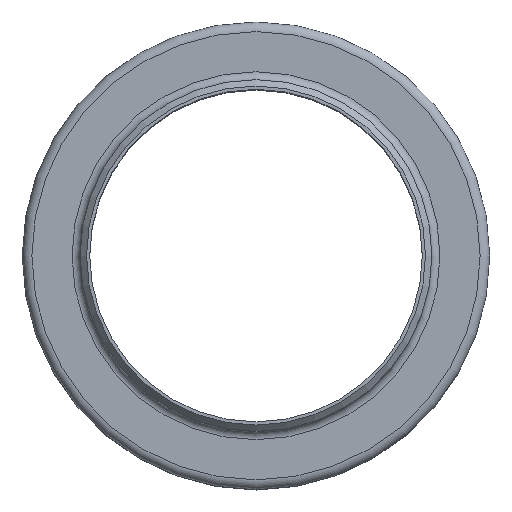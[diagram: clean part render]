
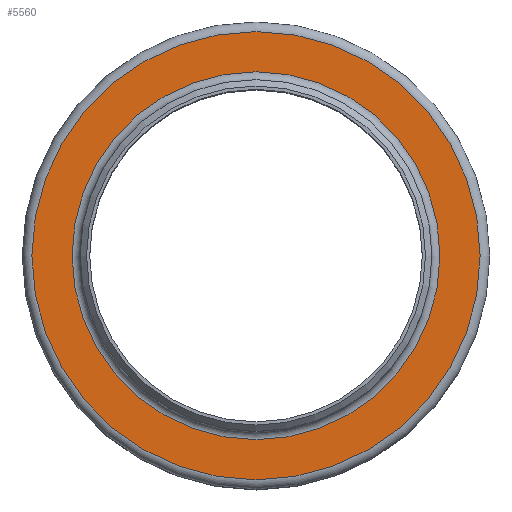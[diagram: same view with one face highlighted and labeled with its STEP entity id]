
A CAD part, top view. The second image highlights one B-rep face of the part: STEP entity #5560.
In plain terms, the highlighted planar face has unit normal (0, 0, 1).
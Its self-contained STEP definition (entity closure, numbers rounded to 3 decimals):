
#196=FACE_BOUND('',#1013,.T.);
#413=PLANE('',#5963);
#673=FACE_OUTER_BOUND('',#1012,.T.);
#1012=EDGE_LOOP('',(#4641));
#1013=EDGE_LOOP('',(#4642));
#2020=CIRCLE('',#5958,114.5);
#2024=CIRCLE('',#5964,139.5);
#2574=VERTEX_POINT('',#12948);
#2577=VERTEX_POINT('',#12959);
#3280=EDGE_CURVE('',#2574,#2574,#2020,.T.);
#3285=EDGE_CURVE('',#2577,#2577,#2024,.T.);
#4641=ORIENTED_EDGE('',*,*,#3285,.F.);
#4642=ORIENTED_EDGE('',*,*,#3280,.F.);
#5560=ADVANCED_FACE('',(#673,#196),#413,.F.);
#5958=AXIS2_PLACEMENT_3D('',#12950,#7062,#7063);
#5963=AXIS2_PLACEMENT_3D('',#12958,#7073,#7074);
#5964=AXIS2_PLACEMENT_3D('',#12960,#7075,#7076);
#7062=DIRECTION('center_axis',(0.,0.,1.));
#7063=DIRECTION('ref_axis',(0.,-1.,0.));
#7073=DIRECTION('center_axis',(0.,0.,-1.));
#7074=DIRECTION('ref_axis',(-1.,0.,0.));
#7075=DIRECTION('center_axis',(0.,0.,-1.));
#7076=DIRECTION('ref_axis',(1.,0.,0.));
#12948=CARTESIAN_POINT('',(114.5,0.,93.5));
#12950=CARTESIAN_POINT('Origin',(0.,0.,93.5));
#12958=CARTESIAN_POINT('Origin',(0.,109.5,93.5));
#12959=CARTESIAN_POINT('',(139.5,0.,93.5));
#12960=CARTESIAN_POINT('Origin',(0.,0.,93.5));
